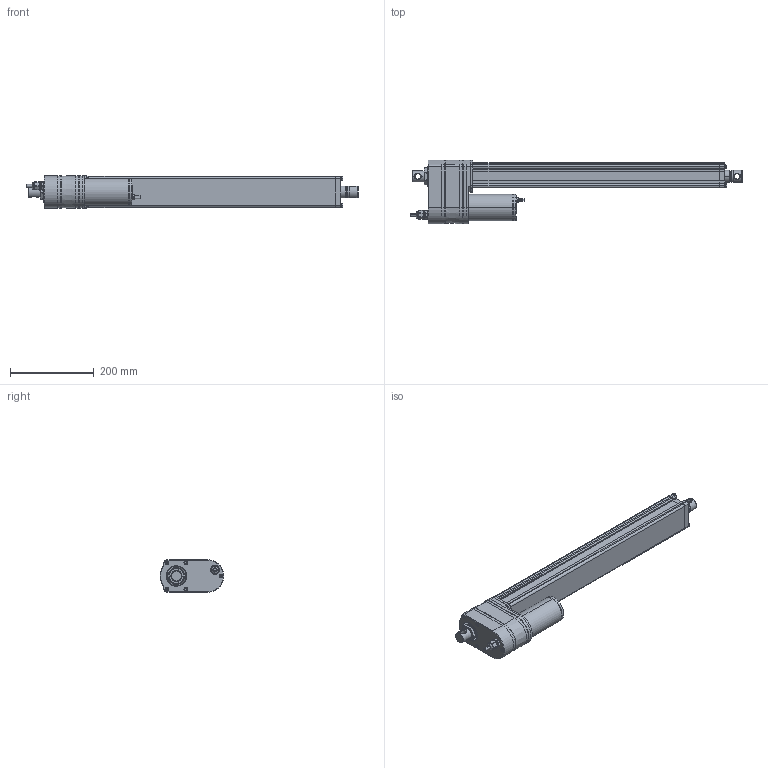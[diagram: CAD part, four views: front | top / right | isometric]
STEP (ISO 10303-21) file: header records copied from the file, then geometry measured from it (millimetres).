
FILE_DESCRIPTION((''),' ');
FILE_NAME('dszy12-450_lt_ltpot_lths.stp',' ',('MSW'),('MSW'),' ','ACIS 14.0',' ');
FILE_SCHEMA(('automotive_design'));
Length unit declared in the file: inch
Products named in the file (2): dszy12-450_lt_ltpot_lths
Bounding box: 792 x 151.7 x 77.2 mm (x, y, z)
Volume: 3604022.9 mm3; surface area: 409755.3 mm2
Topology: 2 solids, 2 shells, 1687 faces, 4097 edges, 2434 vertices
Faces by surface type: plane 1327, cylinder 232, cone 64, torus 40, bspline 24
Entity records: 62295 total; most frequent: CARTESIAN_POINT 8791, DIRECTION 8725, ORIENTED_EDGE 8146, EDGE_CURVE 4073, AXIS2_PLACEMENT_3D 3043, LINE 2639, VECTOR 2639, VERTEX_POINT 2434
